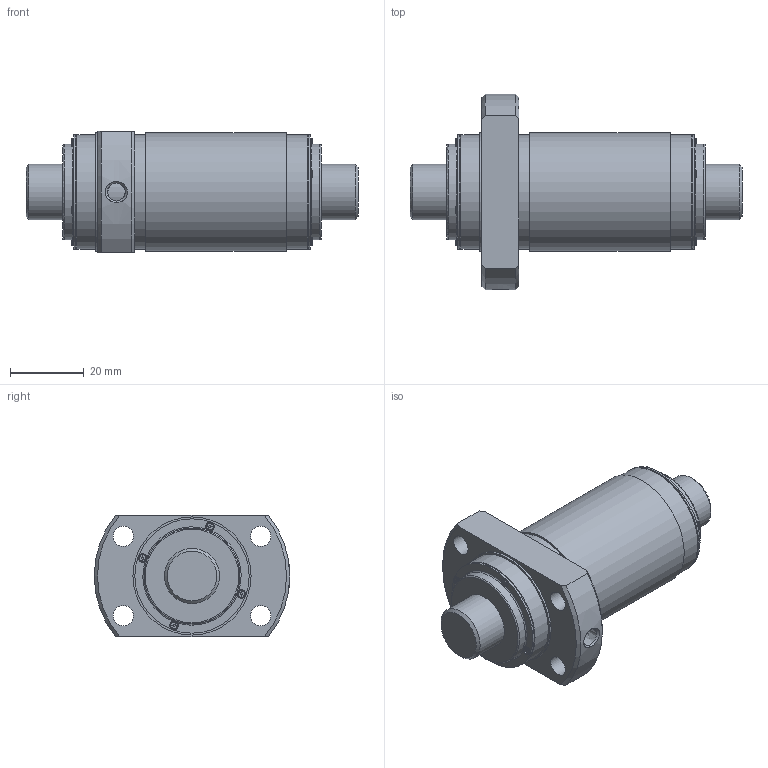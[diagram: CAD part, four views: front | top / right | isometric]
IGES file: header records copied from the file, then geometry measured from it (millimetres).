
Start section: Data from Parasolid IGES Translator 26.0.171, Copyright(c) 2006 Siemens PLM Software. All Rights Reserved.
Global section: file name: WTF1530-3ZZ+90LC7T_000_rev.igs; native system: By Siemens PLM Incorporated; preprocessor: XPlus GENERIC/IGES 26.0.171; author: Noname; organization: Noname; date: 20250611.063918; units: millimetre
Bounding box: 90 x 53 x 33 mm (x, y, z)
Surface area: 19014.5 mm2 (no closed solid volume)
Topology: 0 solids, 0 shells, 214 faces, 1128 edges, 1063 vertices
Faces by surface type: extrusion 127, revolution 87
